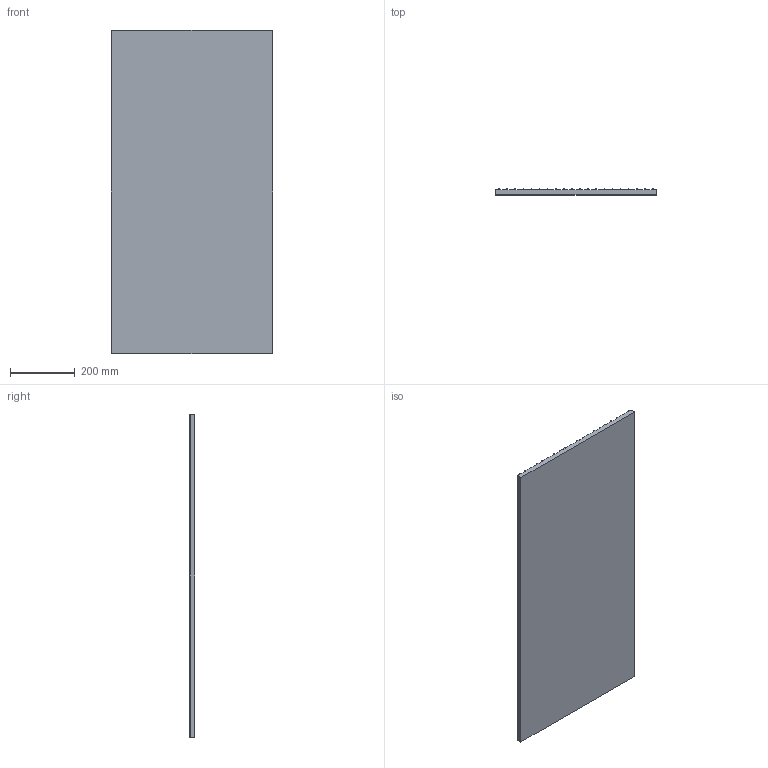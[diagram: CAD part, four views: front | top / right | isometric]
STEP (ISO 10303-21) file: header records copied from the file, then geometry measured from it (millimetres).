
FILE_DESCRIPTION(/* description */ (''),/* implementation_level */ '2;1');
FILE_NAME(/* name */ 'W102.stp',/* time_stamp */ '2024-06-11T15:48:46+02:00',/* author */ ('bzsolt'),/* organization */ (''),/* preprocessor_version */ 'ST-DEVELOPER v20',/* originating_system */ 'Autodesk Inventor 2025',/* authorisation */ '');
FILE_SCHEMA (('AUTOMOTIVE_DESIGN { 1 0 10303 214 3 1 1 }'));
Length unit declared in the file: millimetre
Products named in the file (1): W102
Bounding box: 500 x 18 x 1000 mm (x, y, z)
Volume: 7836780.3 mm3; surface area: 1094065.3 mm2
Topology: 1 solids, 1 shells, 606 faces, 1374 edges, 770 vertices
Faces by surface type: cylinder 281, torus 200, plane 83, sphere 38, bspline 4
Entity records: 17047 total; most frequent: DIRECTION 3414, CARTESIAN_POINT 2879, ORIENTED_EDGE 2748, AXIS2_PLACEMENT_3D 1445, EDGE_CURVE 1374, CIRCLE 842, VERTEX_POINT 770, FACE_OUTER_BOUND 606
